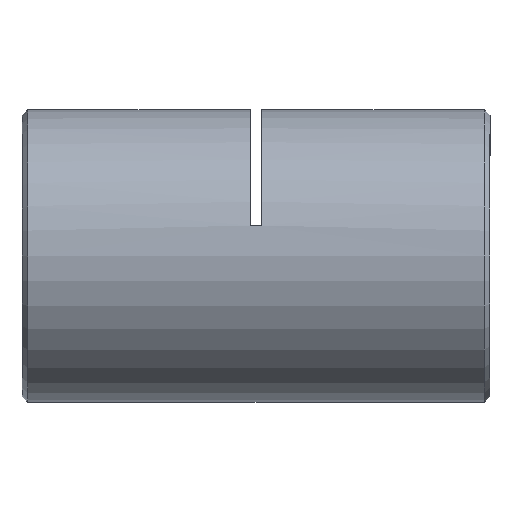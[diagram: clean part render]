
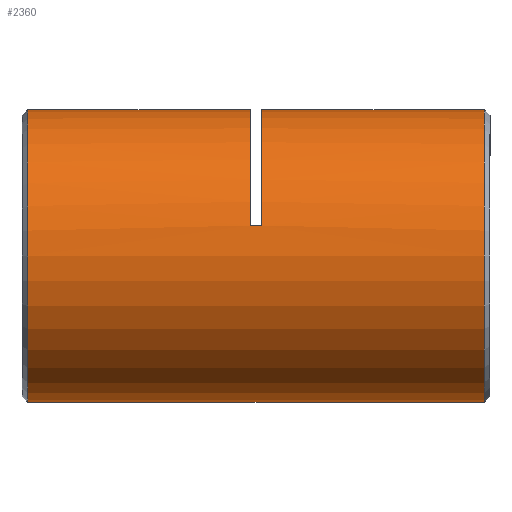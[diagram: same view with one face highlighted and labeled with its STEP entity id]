
A CAD part, left-side view. The second image highlights one B-rep face of the part: STEP entity #2360.
In plain terms, the highlighted cylindrical face has radius 12.5 mm (diameter 25 mm), a partial arc.
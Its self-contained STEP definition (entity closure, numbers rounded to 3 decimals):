
#29 = CIRCLE ( 'NONE', #3901, 12.5 ) ;
#170 = LINE ( 'NONE', #4273, #1914 ) ;
#215 = ORIENTED_EDGE ( 'NONE', *, *, #4705, .T. ) ;
#351 = CARTESIAN_POINT ( 'NONE',  ( 0., 20.75, 0. ) ) ;
#383 = EDGE_LOOP ( 'NONE', ( #5832, #762, #3558, #933, #1061, #4419, #215, #642 ) ) ;
#417 = VERTEX_POINT ( 'NONE', #1464 ) ;
#642 = ORIENTED_EDGE ( 'NONE', *, *, #4638, .T. ) ;
#762 = ORIENTED_EDGE ( 'NONE', *, *, #2786, .T. ) ;
#765 = CARTESIAN_POINT ( 'NONE',  ( 0., 0.75, 0. ) ) ;
#791 = CARTESIAN_POINT ( 'NONE',  ( -12.226, 20.75, 2.604 ) ) ;
#933 = ORIENTED_EDGE ( 'NONE', *, *, #2973, .T. ) ;
#953 = CARTESIAN_POINT ( 'NONE',  ( 0., 19.75, 0. ) ) ;
#995 = VERTEX_POINT ( 'NONE', #791 ) ;
#1061 = ORIENTED_EDGE ( 'NONE', *, *, #4314, .F. ) ;
#1075 = DIRECTION ( 'NONE',  ( 0., 1., 0. ) ) ;
#1175 = AXIS2_PLACEMENT_3D ( 'NONE', #3307, #5526, #5094 ) ;
#1219 = EDGE_CURVE ( 'NONE', #5548, #417, #170, .T. ) ;
#1335 = VERTEX_POINT ( 'NONE', #4414 ) ;
#1464 = CARTESIAN_POINT ( 'NONE',  ( 0., 20.75, 12.5 ) ) ;
#1579 = CARTESIAN_POINT ( 'NONE',  ( 0., 39.75, 0. ) ) ;
#1633 = VECTOR ( 'NONE', #3164, 1000. ) ;
#1736 = DIRECTION ( 'NONE',  ( 0., 1., 0. ) ) ;
#1771 = CARTESIAN_POINT ( 'NONE',  ( 0., 39.75, 12.5 ) ) ;
#1859 = CARTESIAN_POINT ( 'NONE',  ( -12.226, 19.75, 2.604 ) ) ;
#1909 = EDGE_CURVE ( 'NONE', #3095, #1335, #29, .T. ) ;
#1914 = VECTOR ( 'NONE', #5075, 1000. ) ;
#2097 = CIRCLE ( 'NONE', #5501, 12.5 ) ;
#2111 = CARTESIAN_POINT ( 'NONE',  ( 0., 39.75, -12.5 ) ) ;
#2149 = DIRECTION ( 'NONE',  ( 0., 1., 0. ) ) ;
#2360 = ADVANCED_FACE ( 'NONE', ( #4242 ), #3364, .T. ) ;
#2407 = LINE ( 'NONE', #4206, #4087 ) ;
#2464 = VERTEX_POINT ( 'NONE', #2111 ) ;
#2572 = DIRECTION ( 'NONE',  ( 0., 0., 1. ) ) ;
#2586 = CARTESIAN_POINT ( 'NONE',  ( 0., 0.75, 12.5 ) ) ;
#2786 = EDGE_CURVE ( 'NONE', #5548, #2464, #5771, .T. ) ;
#2788 = DIRECTION ( 'NONE',  ( 0., 0., 1. ) ) ;
#2810 = VERTEX_POINT ( 'NONE', #4701 ) ;
#2925 = DIRECTION ( 'NONE',  ( 0., 0., -1. ) ) ;
#2973 = EDGE_CURVE ( 'NONE', #2810, #5466, #5586, .T. ) ;
#3095 = VERTEX_POINT ( 'NONE', #1859 ) ;
#3111 = EDGE_CURVE ( 'NONE', #2464, #2810, #2407, .T. ) ;
#3119 = CARTESIAN_POINT ( 'NONE',  ( -12.226, 20.25, 2.604 ) ) ;
#3164 = DIRECTION ( 'NONE',  ( 0., -1., 0. ) ) ;
#3307 = CARTESIAN_POINT ( 'NONE',  ( 0., 40.5, 0. ) ) ;
#3364 = CYLINDRICAL_SURFACE ( 'NONE', #1175, 12.5 ) ;
#3548 = LINE ( 'NONE', #4021, #1633 ) ;
#3558 = ORIENTED_EDGE ( 'NONE', *, *, #3111, .T. ) ;
#3889 = VECTOR ( 'NONE', #1736, 1000. ) ;
#3901 = AXIS2_PLACEMENT_3D ( 'NONE', #953, #1075, #2788 ) ;
#3949 = DIRECTION ( 'NONE',  ( 0., 0., 1. ) ) ;
#4021 = CARTESIAN_POINT ( 'NONE',  ( 0., 40.5, 12.5 ) ) ;
#4087 = VECTOR ( 'NONE', #5538, 1000. ) ;
#4206 = CARTESIAN_POINT ( 'NONE',  ( 0., 40.5, -12.5 ) ) ;
#4237 = DIRECTION ( 'NONE',  ( 0., -1., 0. ) ) ;
#4242 = FACE_OUTER_BOUND ( 'NONE', #383, .T. ) ;
#4261 = AXIS2_PLACEMENT_3D ( 'NONE', #1579, #4237, #2925 ) ;
#4273 = CARTESIAN_POINT ( 'NONE',  ( 0., 40.5, 12.5 ) ) ;
#4314 = EDGE_CURVE ( 'NONE', #1335, #5466, #3548, .T. ) ;
#4414 = CARTESIAN_POINT ( 'NONE',  ( 0., 19.75, 12.5 ) ) ;
#4419 = ORIENTED_EDGE ( 'NONE', *, *, #1909, .F. ) ;
#4510 = LINE ( 'NONE', #3119, #3889 ) ;
#4638 = EDGE_CURVE ( 'NONE', #995, #417, #2097, .T. ) ;
#4701 = CARTESIAN_POINT ( 'NONE',  ( 0., 0.75, -12.5 ) ) ;
#4705 = EDGE_CURVE ( 'NONE', #3095, #995, #4510, .T. ) ;
#4758 = DIRECTION ( 'NONE',  ( 0., 1., 0. ) ) ;
#5075 = DIRECTION ( 'NONE',  ( 0., -1., 0. ) ) ;
#5094 = DIRECTION ( 'NONE',  ( 0., 0., -1. ) ) ;
#5305 = AXIS2_PLACEMENT_3D ( 'NONE', #765, #4758, #2572 ) ;
#5466 = VERTEX_POINT ( 'NONE', #2586 ) ;
#5501 = AXIS2_PLACEMENT_3D ( 'NONE', #351, #2149, #3949 ) ;
#5526 = DIRECTION ( 'NONE',  ( 0., -1., 0. ) ) ;
#5538 = DIRECTION ( 'NONE',  ( 0., -1., 0. ) ) ;
#5548 = VERTEX_POINT ( 'NONE', #1771 ) ;
#5586 = CIRCLE ( 'NONE', #5305, 12.5 ) ;
#5771 = CIRCLE ( 'NONE', #4261, 12.5 ) ;
#5832 = ORIENTED_EDGE ( 'NONE', *, *, #1219, .F. ) ;
